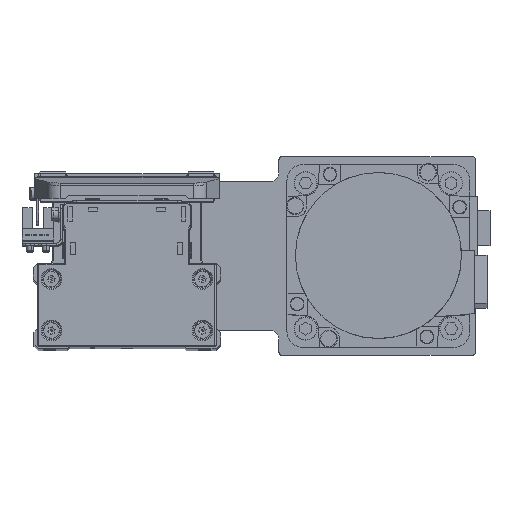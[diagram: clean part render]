
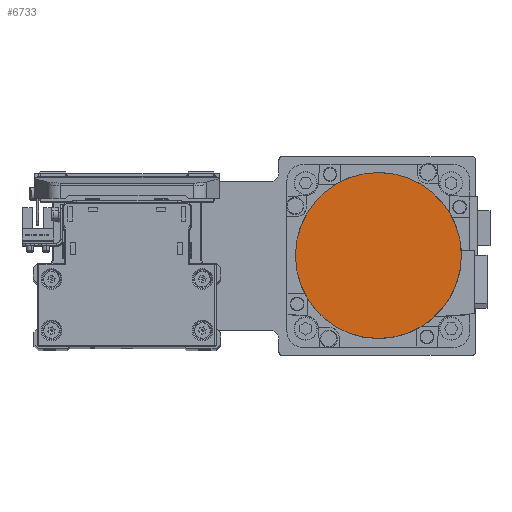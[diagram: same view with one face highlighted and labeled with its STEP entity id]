
A CAD part, top view. The second image highlights one B-rep face of the part: STEP entity #6733.
In plain terms, the highlighted planar face has unit normal (0, 0, 1) as drawn and (0, 0, -1) by its records, which use the part's own axes.
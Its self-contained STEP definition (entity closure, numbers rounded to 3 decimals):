
#806 = ORIENTED_EDGE ( 'NONE', *, *, #4350, .F. ) ;
#2755 = CARTESIAN_POINT ( 'NONE',  ( 0., 0., -122.2 ) ) ;
#3163 = DIRECTION ( 'NONE',  ( 0., -1., 0. ) ) ;
#3620 = VERTEX_POINT ( 'NONE', #39223 ) ;
#3953 = AXIS2_PLACEMENT_3D ( 'NONE', #7663, #19745, #31885 ) ;
#4350 = EDGE_CURVE ( 'NONE', #3620, #15874, #21041, .T. ) ;
#6469 = AXIS2_PLACEMENT_3D ( 'NONE', #18219, #30354, #3163 ) ;
#6733 = ADVANCED_FACE ( 'NONE', ( #17812 ), #29944, .F. ) ;
#7663 = CARTESIAN_POINT ( 'NONE',  ( 0., 0., -122.2 ) ) ;
#8514 = CARTESIAN_POINT ( 'NONE',  ( 0., -36.3, -122.2 ) ) ;
#8557 = ORIENTED_EDGE ( 'NONE', *, *, #28547, .F. ) ;
#14846 = DIRECTION ( 'NONE',  ( 0., 0., 1. ) ) ;
#15874 = VERTEX_POINT ( 'NONE', #8514 ) ;
#17812 = FACE_OUTER_BOUND ( 'NONE', #30547, .T. ) ;
#18219 = CARTESIAN_POINT ( 'NONE',  ( 0., 0., -122.2 ) ) ;
#19745 = DIRECTION ( 'NONE',  ( 0., 0., 1. ) ) ;
#21041 = CIRCLE ( 'NONE', #3953, 36.3 ) ;
#23555 = CIRCLE ( 'NONE', #6469, 36.3 ) ;
#26969 = DIRECTION ( 'NONE',  ( 1., 0., 0. ) ) ;
#28547 = EDGE_CURVE ( 'NONE', #15874, #3620, #23555, .T. ) ;
#29021 = AXIS2_PLACEMENT_3D ( 'NONE', #2755, #14846, #26969 ) ;
#29944 = PLANE ( 'NONE',  #29021 ) ;
#30354 = DIRECTION ( 'NONE',  ( 0., 0., 1. ) ) ;
#30547 = EDGE_LOOP ( 'NONE', ( #806, #8557 ) ) ;
#31885 = DIRECTION ( 'NONE',  ( 0., 1., 0. ) ) ;
#39223 = CARTESIAN_POINT ( 'NONE',  ( 0., 36.3, -122.2 ) ) ;
